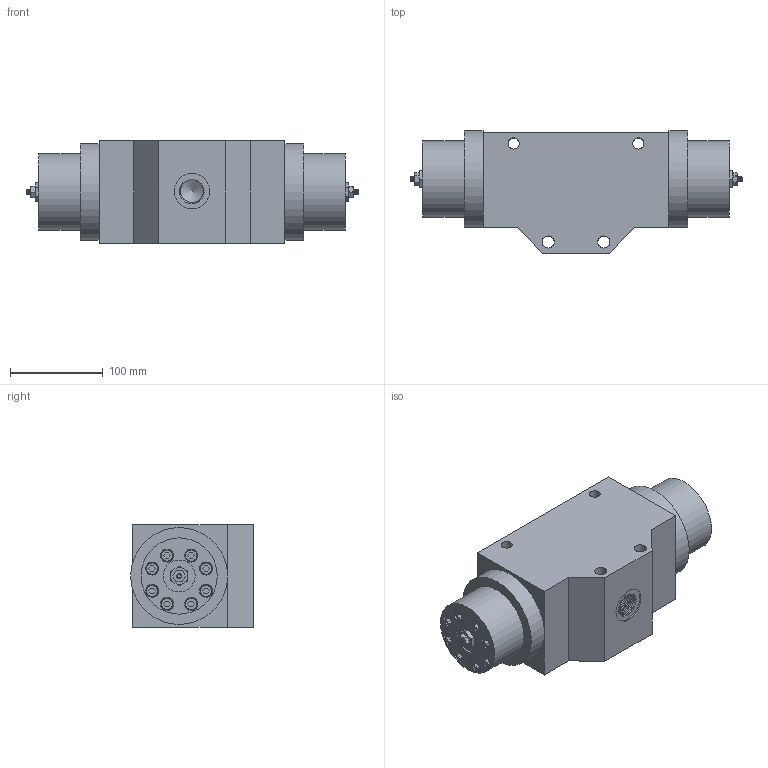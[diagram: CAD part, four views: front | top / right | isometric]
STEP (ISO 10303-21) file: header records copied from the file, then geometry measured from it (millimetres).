
FILE_DESCRIPTION(/* description */ (''),/* implementation_level */ '2;1');
FILE_NAME(/* name */ '3FJLk-L4D-100.stp',/* time_stamp */ '2023-05-05T13:39:26+08:00',/* author */ (''),/* organization */ (''),/* preprocessor_version */ 'ST-DEVELOPER v16.7',/* originating_system */ 'SIEMENS PLM Software NX 12.0',/* authorisation */ '');
FILE_SCHEMA (('AUTOMOTIVE_DESIGN { 1 0 10303 214 3 1 1 1 }'));
Length unit declared in the file: millimetre
Products named in the file (1): 4-2
Bounding box: 357 x 131.82 x 110 mm (x, y, z)
Volume: 3259686.3 mm3; surface area: 301828.6 mm2
Topology: 27 solids, 27 shells, 533 faces, 1312 edges, 870 vertices
Faces by surface type: plane 304, cylinder 139, torus 42, cone 35, bspline 13
Full cylindrical faces by diameter (mm): 6.8 x16, 8 x16, 9 x16, 12 x2, 13 x18, 14 x16, 31 x2, 34.394 x2, 38 x1, 82 x2, 104.141 x2
Entity records: 30852 total; most frequent: CARTESIAN_POINT 19021, DIRECTION 2351, ORIENTED_EDGE 2120, EDGE_CURVE 1060, AXIS2_PLACEMENT_3D 884, EDGE_LOOP 804, VERTEX_POINT 799, LINE 583
